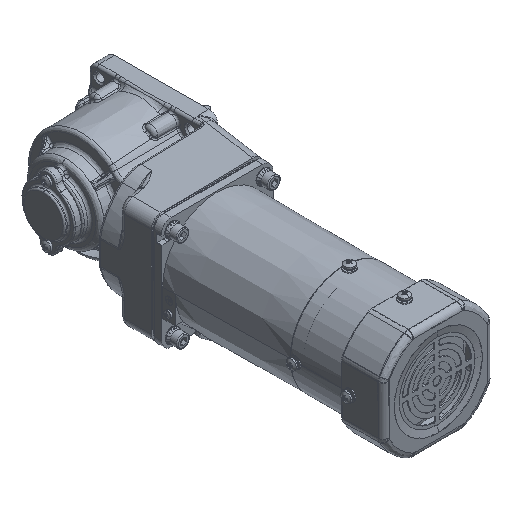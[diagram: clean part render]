
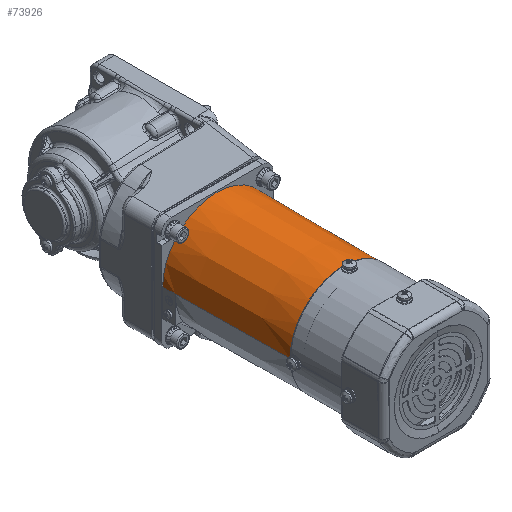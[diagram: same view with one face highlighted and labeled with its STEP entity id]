
A CAD part, isometric view. The second image highlights one B-rep face of the part: STEP entity #73926.
In plain terms, the highlighted conical face has half-angle 0.503 degrees and reference radius 44 mm.
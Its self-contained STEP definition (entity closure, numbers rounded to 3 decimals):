
#2479 = VECTOR ( 'NONE', #50717, 1000. ) ;
#3651 = ORIENTED_EDGE ( 'NONE', *, *, #88819, .F. ) ;
#3918 = DIRECTION ( 'NONE',  ( 0., 0., -1. ) ) ;
#17987 = CARTESIAN_POINT ( 'NONE',  ( -31.541, 8.092, 221.306 ) ) ;
#18560 = LINE ( 'NONE', #31601, #53910 ) ;
#19837 = AXIS2_PLACEMENT_3D ( 'NONE', #66890, #65910, #74236 ) ;
#20063 = VERTEX_POINT ( 'NONE', #60950 ) ;
#20169 = CARTESIAN_POINT ( 'NONE',  ( -16.541, 8.092, 264.542 ) ) ;
#23767 = ORIENTED_EDGE ( 'NONE', *, *, #63641, .T. ) ;
#23821 = ORIENTED_EDGE ( 'NONE', *, *, #63927, .T. ) ;
#25600 = DIRECTION ( 'NONE',  ( 0., 0., -1. ) ) ;
#31601 = CARTESIAN_POINT ( 'NONE',  ( 70.459, 8.092, 177.306 ) ) ;
#31898 = CARTESIAN_POINT ( 'NONE',  ( 60.459, 8.092, 265.218 ) ) ;
#43141 = CARTESIAN_POINT ( 'NONE',  ( 70.459, 8.092, 265.306 ) ) ;
#43928 = ORIENTED_EDGE ( 'NONE', *, *, #63945, .T. ) ;
#45589 = CONICAL_SURFACE ( 'NONE', #19837, 44., 0.009 ) ;
#45844 = FACE_OUTER_BOUND ( 'NONE', #47768, .T. ) ;
#47768 = EDGE_LOOP ( 'NONE', ( #3651, #23767, #86517, #23821, #43928 ) ) ;
#49542 = DIRECTION ( 'NONE',  ( -1., 0., 0. ) ) ;
#50717 = DIRECTION ( 'NONE',  ( 1., 0., 0.009 ) ) ;
#51028 = VERTEX_POINT ( 'NONE', #69782 ) ;
#51836 = CARTESIAN_POINT ( 'NONE',  ( -31.541, 8.092, 178.201 ) ) ;
#53910 = VECTOR ( 'NONE', #83337, 1000. ) ;
#55312 = AXIS2_PLACEMENT_3D ( 'NONE', #92991, #49542, #3918 ) ;
#56313 = AXIS2_PLACEMENT_3D ( 'NONE', #17987, #70362, #25600 ) ;
#60950 = CARTESIAN_POINT ( 'NONE',  ( -31.541, 8.092, 264.411 ) ) ;
#63641 = EDGE_CURVE ( 'NONE', #20063, #73344, #91855, .T. ) ;
#63927 = EDGE_CURVE ( 'NONE', #51028, #83504, #88186, .T. ) ;
#63945 = EDGE_CURVE ( 'NONE', #83504, #90174, #85141, .T. ) ;
#65910 = DIRECTION ( 'NONE',  ( 1., 0., 0. ) ) ;
#66890 = CARTESIAN_POINT ( 'NONE',  ( 70.459, 8.092, 221.306 ) ) ;
#69782 = CARTESIAN_POINT ( 'NONE',  ( 70.459, 8.092, 177.306 ) ) ;
#70362 = DIRECTION ( 'NONE',  ( 1., 0., 0. ) ) ;
#71972 = LINE ( 'NONE', #43141, #2479 ) ;
#72425 = DIRECTION ( 'NONE',  ( -1., 0., -0.009 ) ) ;
#73344 = VERTEX_POINT ( 'NONE', #51836 ) ;
#73926 = ADVANCED_FACE ( 'NONE', ( #45844 ), #45589, .T. ) ;
#74236 = DIRECTION ( 'NONE',  ( 0., 0., -1. ) ) ;
#76197 = CARTESIAN_POINT ( 'NONE',  ( 70.459, 8.092, 265.306 ) ) ;
#83337 = DIRECTION ( 'NONE',  ( 1., 0., -0.009 ) ) ;
#83504 = VERTEX_POINT ( 'NONE', #76197 ) ;
#85141 = LINE ( 'NONE', #20169, #86843 ) ;
#86517 = ORIENTED_EDGE ( 'NONE', *, *, #90145, .T. ) ;
#86843 = VECTOR ( 'NONE', #72425, 1000. ) ;
#88186 = CIRCLE ( 'NONE', #55312, 44. ) ;
#88819 = EDGE_CURVE ( 'NONE', #20063, #90174, #71972, .T. ) ;
#90145 = EDGE_CURVE ( 'NONE', #73344, #51028, #18560, .T. ) ;
#90174 = VERTEX_POINT ( 'NONE', #31898 ) ;
#91855 = CIRCLE ( 'NONE', #56313, 43.105 ) ;
#92991 = CARTESIAN_POINT ( 'NONE',  ( 70.459, 8.092, 221.306 ) ) ;
